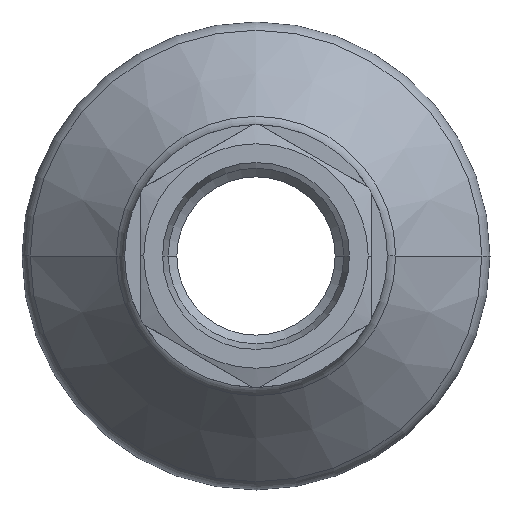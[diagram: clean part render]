
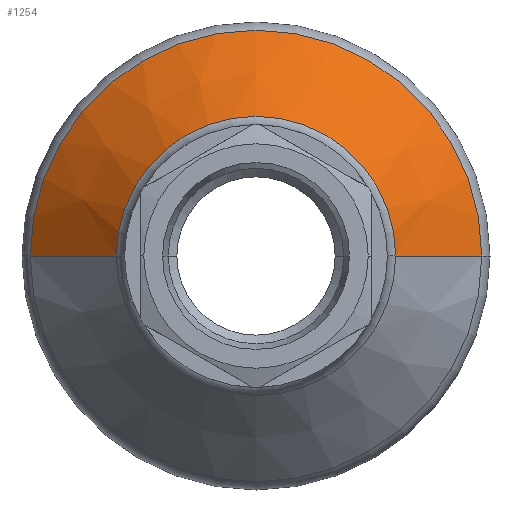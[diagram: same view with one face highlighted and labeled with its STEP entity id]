
A CAD part, left-side view. The second image highlights one B-rep face of the part: STEP entity #1254.
In plain terms, the highlighted conical face has half-angle 42 degrees and reference radius 28.5 mm.
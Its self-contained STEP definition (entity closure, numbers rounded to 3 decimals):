
#179=CARTESIAN_POINT('',(26.426,0.,0.));
#180=DIRECTION('',(1.,0.,0.));
#181=DIRECTION('',(0.,1.,0.));
#182=AXIS2_PLACEMENT_3D('',#179,#180,#181);
#187=CARTESIAN_POINT('',(41.343,0.,0.));
#188=DIRECTION('',(-1.,0.,0.));
#189=DIRECTION('',(0.,-1.,0.));
#190=AXIS2_PLACEMENT_3D('',#187,#188,#189);
#546=DIRECTION('',(-0.743,0.669,0.));
#547=VECTOR('',#546,20.073);
#548=CARTESIAN_POINT('',(41.343,-35.216,
0.));
#549=LINE('',#548,#547);
#561=DIRECTION('',(-0.743,-0.669,0.));
#562=VECTOR('',#561,20.073);
#563=CARTESIAN_POINT('',(41.343,35.216,0.));
#564=LINE('',#563,#562);
#997=CARTESIAN_POINT('',(41.343,35.216,0.));
#998=CARTESIAN_POINT('',(41.343,-35.216,0.));
#999=VERTEX_POINT('',#997);
#1000=VERTEX_POINT('',#998);
#1009=CARTESIAN_POINT('',(26.426,-21.784,0.));
#1010=CARTESIAN_POINT('',(26.426,21.784,0.));
#1011=VERTEX_POINT('',#1009);
#1012=VERTEX_POINT('',#1010);
#1240=CARTESIAN_POINT('',(33.885,0.,0.));
#1241=DIRECTION('',(1.,0.,0.));
#1242=DIRECTION('',(0.,-1.,0.));
#1243=AXIS2_PLACEMENT_3D('',#1240,#1241,#1242);
#1244=CONICAL_SURFACE('',#1243,28.5,42.);
#1246=ORIENTED_EDGE('',*,*,#1245,.F.);
#1248=ORIENTED_EDGE('',*,*,#1247,.F.);
#1249=ORIENTED_EDGE('',*,*,#1230,.F.);
#1251=ORIENTED_EDGE('',*,*,#1250,.T.);
#1252=EDGE_LOOP('',(#1246,#1248,#1249,#1251));
#1253=FACE_OUTER_BOUND('',#1252,.F.);
#183=CIRCLE('',#182,21.784);
#191=CIRCLE('',#190,35.216);
#1230=EDGE_CURVE('',#1000,#999,#191,.T.);
#1245=EDGE_CURVE('',#1012,#1011,#183,.T.);
#1247=EDGE_CURVE('',#999,#1012,#564,.T.);
#1250=EDGE_CURVE('',#1000,#1011,#549,.T.);
#1254=ADVANCED_FACE('',(#1253),#1244,.T.);
